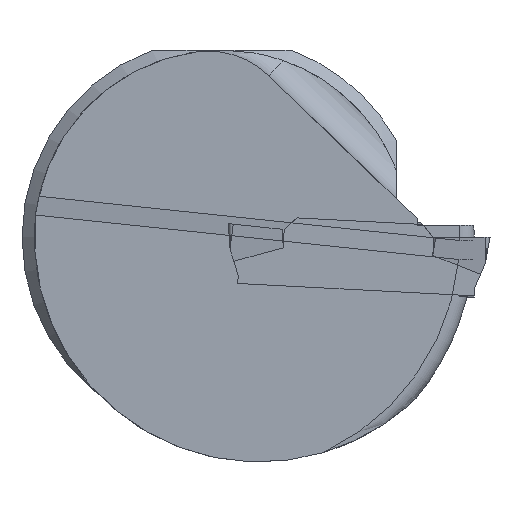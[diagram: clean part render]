
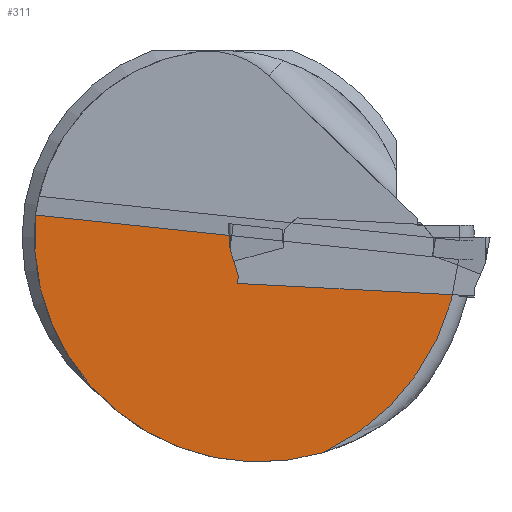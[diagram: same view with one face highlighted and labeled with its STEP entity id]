
A CAD part, left-side view. The second image highlights one B-rep face of the part: STEP entity #311.
In plain terms, the highlighted planar face has unit normal (-1, 0, 0).
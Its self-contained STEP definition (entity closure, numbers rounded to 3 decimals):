
#88=PLANE('',#1114);
#134=LINE('',#1559,#225);
#225=VECTOR('',#1216,1.);
#311=ADVANCED_FACE('',(#375),#88,.T.);
#375=FACE_OUTER_BOUND('',#431,.T.);
#431=EDGE_LOOP('',(#552,#553,#554));
#552=ORIENTED_EDGE('',*,*,#934,.T.);
#553=ORIENTED_EDGE('',*,*,#946,.T.);
#554=ORIENTED_EDGE('',*,*,#947,.T.);
#832=VERTEX_POINT('',#1558);
#833=VERTEX_POINT('',#1560);
#841=VERTEX_POINT('',#1613);
#934=EDGE_CURVE('',#833,#832,#134,.T.);
#946=EDGE_CURVE('',#832,#841,#1074,.T.);
#947=EDGE_CURVE('',#841,#833,#1075,.T.);
#1074=CIRCLE('',#1112,18.);
#1075=CIRCLE('',#1113,19.077);
#1112=AXIS2_PLACEMENT_3D('',#1612,#1239,#1240);
#1113=AXIS2_PLACEMENT_3D('',#1614,#1241,#1242);
#1114=AXIS2_PLACEMENT_3D('',#1615,#1243,#1244);
#1216=DIRECTION('',(0.,0.995,0.105));
#1239=DIRECTION('',(-1.,0.,0.));
#1240=DIRECTION('',(0.,0.,1.));
#1241=DIRECTION('',(-1.,0.,0.));
#1242=DIRECTION('',(0.,0.,1.));
#1243=DIRECTION('',(-1.,0.,0.));
#1244=DIRECTION('',(0.,0.,1.));
#1558=CARTESIAN_POINT('',(0.35,36.411,1.787));
#1559=CARTESIAN_POINT('',(0.35,1.471,-1.885));
#1560=CARTESIAN_POINT('',(0.35,2.506,-1.776));
#1612=CARTESIAN_POINT('',(0.35,18.5,0.));
#1613=CARTESIAN_POINT('',(0.35,13.344,-17.246));
#1614=CARTESIAN_POINT('',(0.35,21.5,0.));
#1615=CARTESIAN_POINT('',(0.35,1.273,0.));
